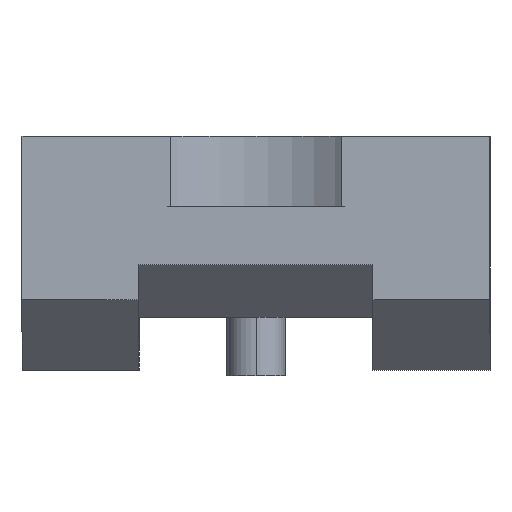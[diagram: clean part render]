
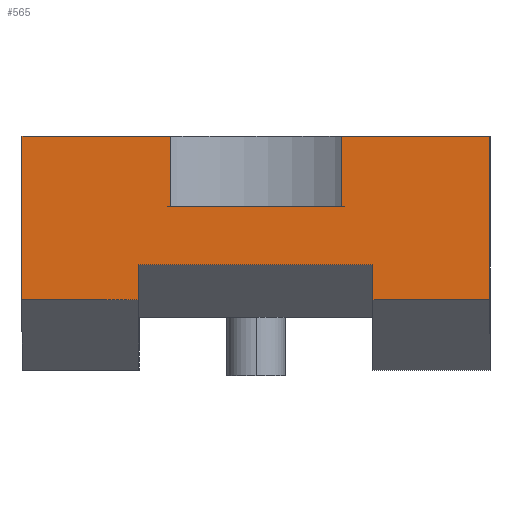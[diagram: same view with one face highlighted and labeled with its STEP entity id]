
A CAD part, left-side view. The second image highlights one B-rep face of the part: STEP entity #565.
In plain terms, the highlighted planar face has unit normal (-1, 0, 0).
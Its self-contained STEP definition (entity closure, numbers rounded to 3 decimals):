
#5=DIRECTION('',(0.,0.,1.));
#6=VECTOR('',#5,14.);
#7=CARTESIAN_POINT('',(-13.5,-20.,-14.));
#8=LINE('',#7,#6);
#116=DIRECTION('',(0.,1.,0.));
#117=VECTOR('',#116,14.663);
#118=CARTESIAN_POINT('',(-13.5,-7.331,-6.));
#119=LINE('',#118,#117);
#120=DIRECTION('',(0.,0.,1.));
#121=VECTOR('',#120,6.);
#122=CARTESIAN_POINT('',(-13.5,-7.331,-6.));
#123=LINE('',#122,#121);
#124=DIRECTION('',(0.,0.,1.));
#125=VECTOR('',#124,3.);
#126=CARTESIAN_POINT('',(-13.5,-10.,-14.));
#127=LINE('',#126,#125);
#128=DIRECTION('',(0.,1.,0.));
#129=VECTOR('',#128,20.);
#130=CARTESIAN_POINT('',(-13.5,-10.,-11.));
#131=LINE('',#130,#129);
#132=DIRECTION('',(0.,0.,1.));
#133=VECTOR('',#132,3.);
#134=CARTESIAN_POINT('',(-13.5,10.,-14.));
#135=LINE('',#134,#133);
#136=DIRECTION('',(0.,0.,1.));
#137=VECTOR('',#136,6.);
#138=CARTESIAN_POINT('',(-13.5,7.331,-6.));
#139=LINE('',#138,#137);
#160=DIRECTION('',(0.,1.,0.));
#161=VECTOR('',#160,12.669);
#162=CARTESIAN_POINT('',(-13.5,7.331,0.));
#163=LINE('',#162,#161);
#164=DIRECTION('',(0.,1.,0.));
#165=VECTOR('',#164,12.669);
#166=CARTESIAN_POINT('',(-13.5,-20.,0.));
#167=LINE('',#166,#165);
#188=DIRECTION('',(0.,0.,1.));
#189=VECTOR('',#188,14.);
#190=CARTESIAN_POINT('',(-13.5,20.,-14.));
#191=LINE('',#190,#189);
#238=DIRECTION('',(0.,1.,0.));
#239=VECTOR('',#238,10.);
#240=CARTESIAN_POINT('',(-13.5,10.,-14.));
#241=LINE('',#240,#239);
#246=DIRECTION('',(0.,1.,0.));
#247=VECTOR('',#246,10.);
#248=CARTESIAN_POINT('',(-13.5,-20.,-14.));
#249=LINE('',#248,#247);
#291=CARTESIAN_POINT('',(-13.5,-20.,0.));
#293=VERTEX_POINT('',#291);
#301=CARTESIAN_POINT('',(-13.5,20.,0.));
#303=VERTEX_POINT('',#301);
#319=CARTESIAN_POINT('',(-13.5,-20.,-14.));
#321=VERTEX_POINT('',#319);
#323=CARTESIAN_POINT('',(-13.5,20.,-14.));
#325=VERTEX_POINT('',#323);
#339=CARTESIAN_POINT('',(-13.5,-10.,-11.));
#340=CARTESIAN_POINT('',(-13.5,10.,-11.));
#341=VERTEX_POINT('',#339);
#342=VERTEX_POINT('',#340);
#349=CARTESIAN_POINT('',(-13.5,10.,-14.));
#350=VERTEX_POINT('',#349);
#351=CARTESIAN_POINT('',(-13.5,-10.,-14.));
#352=VERTEX_POINT('',#351);
#371=CARTESIAN_POINT('',(-13.5,-7.331,-6.));
#372=CARTESIAN_POINT('',(-13.5,7.331,-6.));
#373=VERTEX_POINT('',#371);
#374=VERTEX_POINT('',#372);
#375=CARTESIAN_POINT('',(-13.5,7.331,0.));
#376=VERTEX_POINT('',#375);
#377=CARTESIAN_POINT('',(-13.5,-7.331,0.));
#378=VERTEX_POINT('',#377);
#537=CARTESIAN_POINT('',(-13.5,-20.,-20.));
#538=DIRECTION('',(-1.,0.,0.));
#539=DIRECTION('',(0.,0.,1.));
#540=AXIS2_PLACEMENT_3D('',#537,#538,#539);
#541=PLANE('',#540);
#543=ORIENTED_EDGE('',*,*,#542,.F.);
#545=ORIENTED_EDGE('',*,*,#544,.T.);
#547=ORIENTED_EDGE('',*,*,#546,.F.);
#548=ORIENTED_EDGE('',*,*,#394,.F.);
#550=ORIENTED_EDGE('',*,*,#549,.T.);
#552=ORIENTED_EDGE('',*,*,#551,.T.);
#553=ORIENTED_EDGE('',*,*,#522,.T.);
#554=ORIENTED_EDGE('',*,*,#452,.F.);
#556=ORIENTED_EDGE('',*,*,#555,.T.);
#558=ORIENTED_EDGE('',*,*,#557,.T.);
#560=ORIENTED_EDGE('',*,*,#559,.F.);
#562=ORIENTED_EDGE('',*,*,#561,.F.);
#563=EDGE_LOOP('',(#543,#545,#547,#548,#550,#552,#553,#554,#556,#558,#560,
#562));
#564=FACE_OUTER_BOUND('',#563,.F.);
#565=ADVANCED_FACE('',(#564),#541,.T.);
#394=EDGE_CURVE('',#321,#293,#8,.T.);
#452=EDGE_CURVE('',#350,#342,#135,.T.);
#522=EDGE_CURVE('',#341,#342,#131,.T.);
#542=EDGE_CURVE('',#373,#374,#119,.T.);
#544=EDGE_CURVE('',#373,#378,#123,.T.);
#546=EDGE_CURVE('',#293,#378,#167,.T.);
#549=EDGE_CURVE('',#321,#352,#249,.T.);
#551=EDGE_CURVE('',#352,#341,#127,.T.);
#555=EDGE_CURVE('',#350,#325,#241,.T.);
#557=EDGE_CURVE('',#325,#303,#191,.T.);
#559=EDGE_CURVE('',#376,#303,#163,.T.);
#561=EDGE_CURVE('',#374,#376,#139,.T.);
